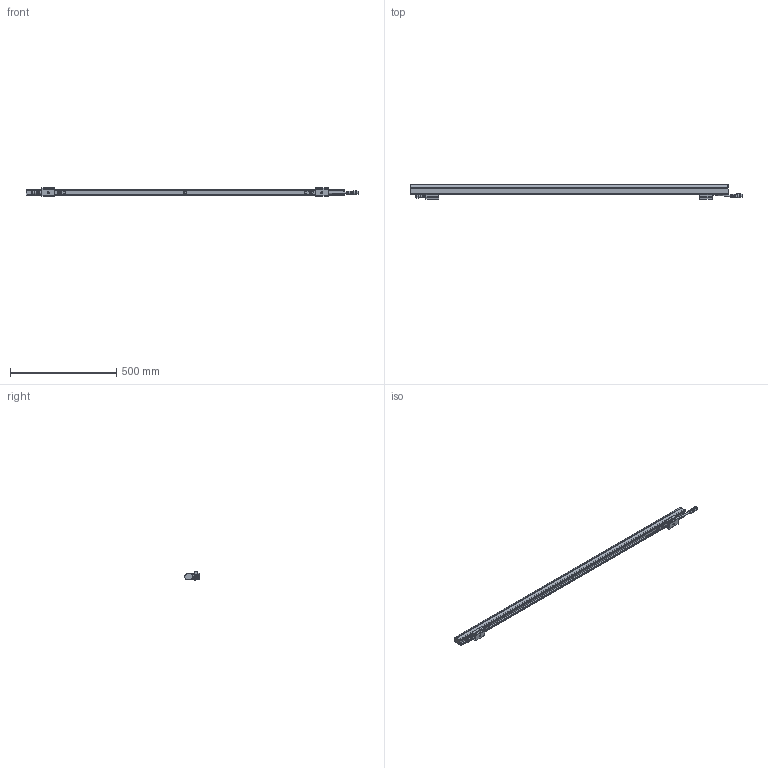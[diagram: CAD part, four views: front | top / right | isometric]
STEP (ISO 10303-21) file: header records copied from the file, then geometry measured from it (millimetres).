
FILE_DESCRIPTION (( 'STEP AP214' ), '1' );
FILE_NAME ('E series 2 Dome L1500.STEP', '2025-11-24T13:35:55', ( '' ), ( '' ), 'SwSTEP 2.0', 'SolidWorks 2025', '' );
FILE_SCHEMA (( 'AUTOMOTIVE_DESIGN' ));
Length unit declared in the file: millimetre
Products named in the file (12): Part2^E series 2; M16 5p Female; E series 2 Dome L1500; E series 2 with dome cover body and bare config_1500mm; D & E Series 2 breathing valve; E series 2 mounting clip bottom; E series 2 mounting clip top; M16 5p Male; E series 2 with dome cover body and bare config_Bare 1500mm; Counter sunk screw torx_M3x16; Counter sunk screw torx_M2.5x16; Part1^E series 2
Assembly tree (27 placements, depth 2):
  E series 2 Dome L1500
    E series 2 with dome cover body and bare config_1500mm
    E series 2 with dome cover body and bare config_Bare 1500mm
    Counter sunk screw torx_M2.5x16  x12
    E series 2 mounting clip bottom  x2
    E series 2 mounting clip top  x2
    Counter sunk screw torx_M3x16  x4
    M16 5p Female
    Part2^E series 2
    M16 5p Male
    Part1^E series 2
    D & E Series 2 breathing valve
Bounding box: 1565.7 x 68.7 x 41.7 mm (x, y, z)
Volume: 1623804 mm3; surface area: 346402.8 mm2
Topology: 29 solids, 32 shells, 1766 faces, 4398 edges, 2781 vertices
Faces by surface type: cylinder 734, plane 629, torus 133, bspline 130, cone 118, sphere 22
Full cylindrical faces by diameter (mm): 2.4 x2, 2.5 x12, 3 x4, 4.5 x12, 5.81 x4, 9.2 x1, 11.1 x1, 14.25 x1, 14.3 x1, 18 x1
Entity records: 61592 total; most frequent: CARTESIAN_POINT 20285, ORIENTED_EDGE 6958, DIRECTION 6535, EDGE_CURVE 3479, AXIS2_PLACEMENT_3D 2523, VERTEX_POINT 2207, EDGE_LOOP 1572, LINE 1489
